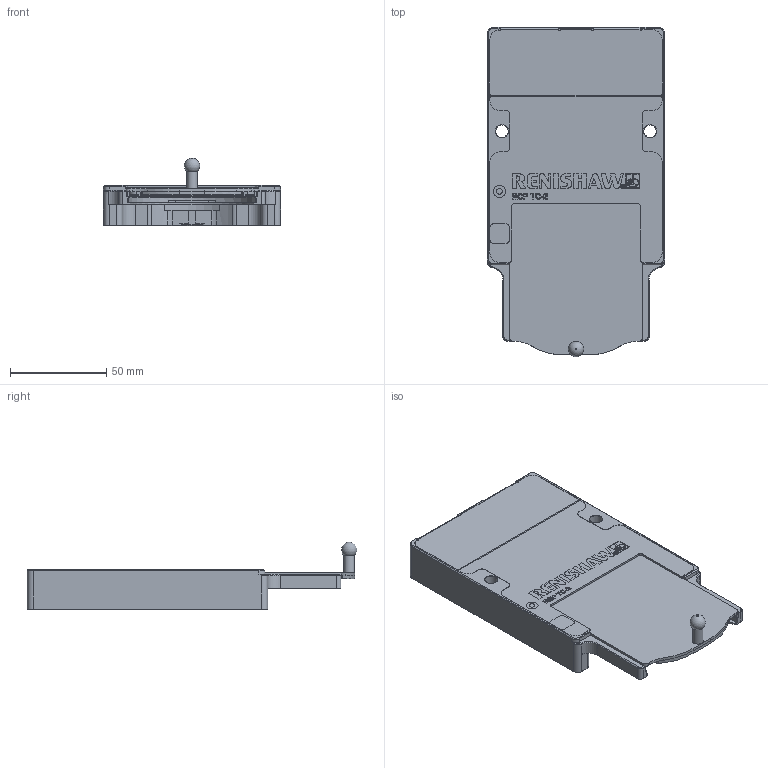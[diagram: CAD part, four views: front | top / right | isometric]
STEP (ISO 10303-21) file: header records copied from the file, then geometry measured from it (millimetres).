
FILE_DESCRIPTION(/* description */ (''),/* implementation_level */ '2;1');
FILE_NAME(/* name */ 'LA-3061-3395-C.stp',/* time_stamp */ '2018-10-04T08:24:46+01:00',/* author */ (''),/* organization */ (''),/* preprocessor_version */ 'ST-DEVELOPER v16',/* originating_system */ 'SIEMENS PLM Software NX 10.0',/* authorisation */ '');
FILE_SCHEMA (('AUTOMOTIVE_DESIGN { 1 0 10303 214 3 1 1 1 }'));
Length unit declared in the file: millimetre
Products named in the file (3): LA-3061-3337_B; LA-3061-3307_B; LA-3061-3395_C
Assembly tree (2 placements, depth 2):
  LA-3061-3395_C
    LA-3061-3307_B
    LA-3061-3337_B
Bounding box: 92 x 171.22 x 35.12 mm (x, y, z)
Volume: 233361.4 mm3; surface area: 48705.5 mm2
Topology: 2 solids, 2 shells, 313 faces, 979 edges, 709 vertices
Faces by surface type: plane 180, cylinder 95, cone 37, sphere 1
Full cylindrical faces by diameter (mm): 5.6 x1, 6.5 x2, 11 x2
Entity records: 12190 total; most frequent: CARTESIAN_POINT 2681, ORIENTED_EDGE 1928, DIRECTION 1706, EDGE_CURVE 964, VERTEX_POINT 706, AXIS2_PLACEMENT_3D 591, LINE 524, VECTOR 524
